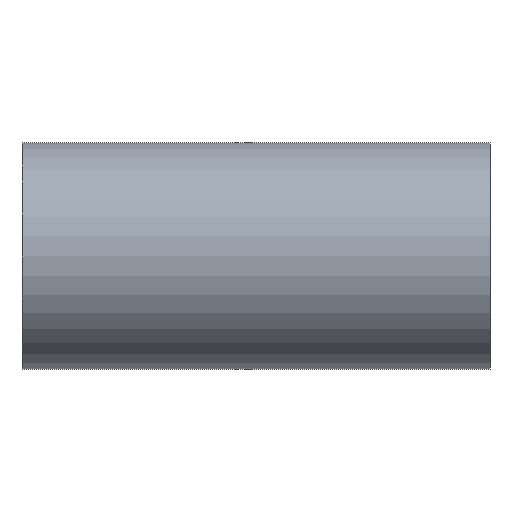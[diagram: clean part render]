
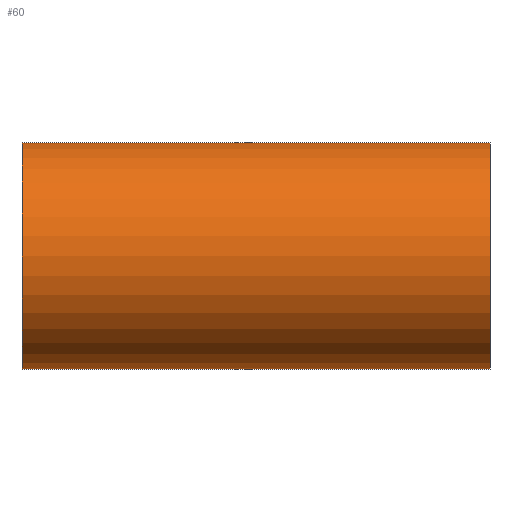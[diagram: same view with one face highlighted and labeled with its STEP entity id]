
A CAD part, front view. The second image highlights one B-rep face of the part: STEP entity #60.
In plain terms, the highlighted cylindrical face has radius 50.8 mm (diameter 101.6 mm), a partial arc.
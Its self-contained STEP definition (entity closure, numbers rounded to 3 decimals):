
#36 = CARTESIAN_POINT ( 'NONE',  ( -104.8, 0., -50.8 ) ) ;
#60 = ADVANCED_FACE ( 'NONE', ( #1305 ), #1620, .T. ) ;
#128 = ORIENTED_EDGE ( 'NONE', *, *, #1199, .T. ) ;
#214 = VERTEX_POINT ( 'NONE', #1368 ) ;
#248 = CIRCLE ( 'NONE', #1908, 50.8 ) ;
#252 = CARTESIAN_POINT ( 'NONE',  ( -104.8, 0., 50.8 ) ) ;
#319 = CARTESIAN_POINT ( 'NONE',  ( 104.8, 0., 0. ) ) ;
#327 = DIRECTION ( 'NONE',  ( -1., 0., 0. ) ) ;
#335 = DIRECTION ( 'NONE',  ( 0., 0., -1. ) ) ;
#491 = CARTESIAN_POINT ( 'NONE',  ( -104.8, 0., -50.8 ) ) ;
#496 = CIRCLE ( 'NONE', #1498, 50.8 ) ;
#632 = CARTESIAN_POINT ( 'NONE',  ( -104.8, 0., 0. ) ) ;
#654 = DIRECTION ( 'NONE',  ( 1., 0., 0. ) ) ;
#704 = VECTOR ( 'NONE', #992, 1000. ) ;
#724 = DIRECTION ( 'NONE',  ( 0., 0., -1. ) ) ;
#871 = ORIENTED_EDGE ( 'NONE', *, *, #1422, .F. ) ;
#875 = VERTEX_POINT ( 'NONE', #1053 ) ;
#888 = EDGE_CURVE ( 'NONE', #875, #214, #248, .T. ) ;
#910 = AXIS2_PLACEMENT_3D ( 'NONE', #632, #654, #724 ) ;
#992 = DIRECTION ( 'NONE',  ( 1., 0., 0. ) ) ;
#1053 = CARTESIAN_POINT ( 'NONE',  ( 104.8, 0., -50.8 ) ) ;
#1183 = CARTESIAN_POINT ( 'NONE',  ( -104.8, 0., 0. ) ) ;
#1199 = EDGE_CURVE ( 'NONE', #1502, #1962, #496, .T. ) ;
#1300 = DIRECTION ( 'NONE',  ( 0., 0., -1. ) ) ;
#1305 = FACE_OUTER_BOUND ( 'NONE', #1431, .T. ) ;
#1327 = DIRECTION ( 'NONE',  ( 1., 0., 0. ) ) ;
#1368 = CARTESIAN_POINT ( 'NONE',  ( 104.8, 0., 50.8 ) ) ;
#1422 = EDGE_CURVE ( 'NONE', #1502, #214, #1571, .T. ) ;
#1431 = EDGE_LOOP ( 'NONE', ( #871, #128, #1753, #1693 ) ) ;
#1474 = CARTESIAN_POINT ( 'NONE',  ( -104.8, 0., 50.8 ) ) ;
#1498 = AXIS2_PLACEMENT_3D ( 'NONE', #1183, #1327, #1300 ) ;
#1502 = VERTEX_POINT ( 'NONE', #1474 ) ;
#1540 = VECTOR ( 'NONE', #2014, 1000. ) ;
#1571 = LINE ( 'NONE', #252, #1540 ) ;
#1620 = CYLINDRICAL_SURFACE ( 'NONE', #910, 50.8 ) ;
#1693 = ORIENTED_EDGE ( 'NONE', *, *, #888, .T. ) ;
#1753 = ORIENTED_EDGE ( 'NONE', *, *, #1895, .T. ) ;
#1775 = LINE ( 'NONE', #36, #704 ) ;
#1895 = EDGE_CURVE ( 'NONE', #1962, #875, #1775, .T. ) ;
#1908 = AXIS2_PLACEMENT_3D ( 'NONE', #319, #327, #335 ) ;
#1962 = VERTEX_POINT ( 'NONE', #491 ) ;
#2014 = DIRECTION ( 'NONE',  ( 1., 0., 0. ) ) ;
